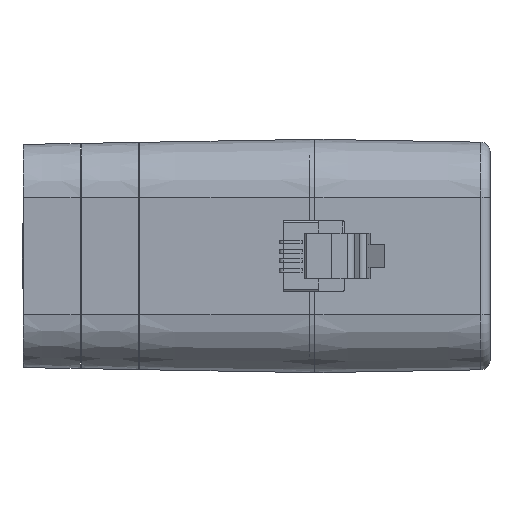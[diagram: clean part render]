
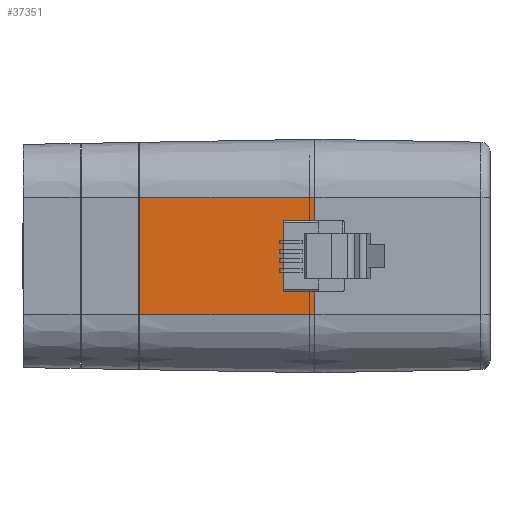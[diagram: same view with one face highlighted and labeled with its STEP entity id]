
A CAD part, left-side view. The second image highlights one B-rep face of the part: STEP entity #37351.
In plain terms, the highlighted planar face has unit normal (-1, 0.018, 0).
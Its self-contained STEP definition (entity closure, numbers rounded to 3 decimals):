
#1566 = DIRECTION ( 'NONE',  ( -0.017, -1., 0. ) ) ;
#1615 = CARTESIAN_POINT ( 'NONE',  ( -31.663, 2.192, -1.65 ) ) ;
#2555 = LINE ( 'NONE', #36103, #12527 ) ;
#2715 = VERTEX_POINT ( 'NONE', #32167 ) ;
#2744 = ORIENTED_EDGE ( 'NONE', *, *, #21936, .T. ) ;
#2830 = ORIENTED_EDGE ( 'NONE', *, *, #6699, .T. ) ;
#4404 = PLANE ( 'NONE',  #26684 ) ;
#6699 = EDGE_CURVE ( 'NONE', #15985, #2715, #11038, .T. ) ;
#6825 = CARTESIAN_POINT ( 'NONE',  ( -31.697, 0.2, 3.636 ) ) ;
#7171 = VERTEX_POINT ( 'NONE', #12784 ) ;
#8104 = LINE ( 'NONE', #28741, #47142 ) ;
#9209 = VERTEX_POINT ( 'NONE', #34279 ) ;
#9618 = VECTOR ( 'NONE', #45434, 1000. ) ;
#10154 = ORIENTED_EDGE ( 'NONE', *, *, #18489, .F. ) ;
#11038 =( BOUNDED_CURVE ( )  B_SPLINE_CURVE ( 3, ( #20647, #46610, #32712, #24563 ),
 .UNSPECIFIED., .F., .T. ) 
 B_SPLINE_CURVE_WITH_KNOTS ( ( 4, 4 ),
 ( 4.709, 6.283 ),
 .UNSPECIFIED. ) 
 CURVE ( )  GEOMETRIC_REPRESENTATION_ITEM ( )  RATIONAL_B_SPLINE_CURVE ( ( 1., 0.804, 0.804, 1. ) ) 
 REPRESENTATION_ITEM ( '' )  );
#12379 = ORIENTED_EDGE ( 'NONE', *, *, #28039, .F. ) ;
#12478 = VERTEX_POINT ( 'NONE', #37122 ) ;
#12527 = VECTOR ( 'NONE', #53041, 1000. ) ;
#12784 = CARTESIAN_POINT ( 'NONE',  ( -31.369, 19., -6.35 ) ) ;
#12916 = ORIENTED_EDGE ( 'NONE', *, *, #26322, .T. ) ;
#14239 = CARTESIAN_POINT ( 'NONE',  ( -31.7, 0.05, -3.635 ) ) ;
#14457 = LINE ( 'NONE', #35963, #36268 ) ;
#14561 = CARTESIAN_POINT ( 'NONE',  ( -31.7, 0.05, -6.35 ) ) ;
#14625 = ORIENTED_EDGE ( 'NONE', *, *, #34490, .T. ) ;
#15116 = LINE ( 'NONE', #15657, #16534 ) ;
#15134 = VERTEX_POINT ( 'NONE', #24800 ) ;
#15657 = CARTESIAN_POINT ( 'NONE',  ( -31.7, 0.05, -6.35 ) ) ;
#15985 = VERTEX_POINT ( 'NONE', #16217 ) ;
#16217 = CARTESIAN_POINT ( 'NONE',  ( -31.697, 0.2, -3.636 ) ) ;
#16534 = VECTOR ( 'NONE', #36073, 1000. ) ;
#16600 = VERTEX_POINT ( 'NONE', #14239 ) ;
#17299 = CARTESIAN_POINT ( 'NONE',  ( -31.698, 0.181, 3.636 ) ) ;
#18489 = EDGE_CURVE ( 'NONE', #7171, #47290, #14457, .T. ) ;
#18566 = DIRECTION ( 'NONE',  ( -1., 0.017, 0. ) ) ;
#19872 = ORIENTED_EDGE ( 'NONE', *, *, #22179, .T. ) ;
#20647 = CARTESIAN_POINT ( 'NONE',  ( -31.697, 0.2, -3.636 ) ) ;
#21936 = EDGE_CURVE ( 'NONE', #15134, #23675, #22286, .T. ) ;
#22179 = EDGE_CURVE ( 'NONE', #7171, #9209, #29248, .T. ) ;
#22286 = LINE ( 'NONE', #17299, #43448 ) ;
#22516 = LINE ( 'NONE', #1615, #33371 ) ;
#23675 = VERTEX_POINT ( 'NONE', #40171 ) ;
#24531 = DIRECTION ( 'NONE',  ( 0.017, 1., -0.003 ) ) ;
#24563 = CARTESIAN_POINT ( 'NONE',  ( -31.663, 2.192, -1.65 ) ) ;
#24800 = CARTESIAN_POINT ( 'NONE',  ( -31.697, 0.2, 3.636 ) ) ;
#25948 = DIRECTION ( 'NONE',  ( -0.017, -1., -0.003 ) ) ;
#26322 = EDGE_CURVE ( 'NONE', #9209, #16600, #36631, .T. ) ;
#26684 = AXIS2_PLACEMENT_3D ( 'NONE', #46260, #18566, #1566 ) ;
#27015 = DIRECTION ( 'NONE',  ( 0., 0., 1. ) ) ;
#27478 = CARTESIAN_POINT ( 'NONE',  ( -31.677, 1.366, 3.639 ) ) ;
#28039 = EDGE_CURVE ( 'NONE', #47290, #12478, #2555, .T. ) ;
#28741 = CARTESIAN_POINT ( 'NONE',  ( -31.7, 0.031, -3.635 ) ) ;
#29248 = LINE ( 'NONE', #41810, #9618 ) ;
#29906 = ORIENTED_EDGE ( 'NONE', *, *, #30771, .T. ) ;
#30771 = EDGE_CURVE ( 'NONE', #2715, #36544, #22516, .T. ) ;
#32167 = CARTESIAN_POINT ( 'NONE',  ( -31.663, 2.192, -1.65 ) ) ;
#32712 = CARTESIAN_POINT ( 'NONE',  ( -31.663, 2.192, -2.816 ) ) ;
#33371 = VECTOR ( 'NONE', #35705, 1000. ) ;
#33589 = VECTOR ( 'NONE', #35798, 1000. ) ;
#34139 = CARTESIAN_POINT ( 'NONE',  ( -31.663, 2.192, 1.65 ) ) ;
#34279 = CARTESIAN_POINT ( 'NONE',  ( -31.7, 0.05, -6.35 ) ) ;
#34445 = CARTESIAN_POINT ( 'NONE',  ( -31.369, 19., 6.35 ) ) ;
#34490 = EDGE_CURVE ( 'NONE', #23675, #12478, #15116, .T. ) ;
#35705 = DIRECTION ( 'NONE',  ( 0., 0., 1. ) ) ;
#35798 = DIRECTION ( 'NONE',  ( 0., 0., 1. ) ) ;
#35963 = CARTESIAN_POINT ( 'NONE',  ( -31.369, 19., -6.35 ) ) ;
#36073 = DIRECTION ( 'NONE',  ( 0., 0., 1. ) ) ;
#36103 = CARTESIAN_POINT ( 'NONE',  ( -31.7, 0.05, 6.35 ) ) ;
#36268 = VECTOR ( 'NONE', #27015, 1000. ) ;
#36335 = EDGE_CURVE ( 'NONE', #16600, #15985, #8104, .T. ) ;
#36544 = VERTEX_POINT ( 'NONE', #34139 ) ;
#36631 = LINE ( 'NONE', #14561, #33589 ) ;
#37122 = CARTESIAN_POINT ( 'NONE',  ( -31.7, 0.05, 6.35 ) ) ;
#37351 = ADVANCED_FACE ( 'NONE', ( #47329 ), #4404, .T. ) ;
#37602 = ORIENTED_EDGE ( 'NONE', *, *, #38060, .T. ) ;
#38060 = EDGE_CURVE ( 'NONE', #36544, #15134, #52061, .T. ) ;
#40171 = CARTESIAN_POINT ( 'NONE',  ( -31.7, 0.05, 3.635 ) ) ;
#41810 = CARTESIAN_POINT ( 'NONE',  ( -31.7, 0.05, -6.35 ) ) ;
#43448 = VECTOR ( 'NONE', #25948, 1000. ) ;
#45017 = CARTESIAN_POINT ( 'NONE',  ( -31.663, 2.192, 2.816 ) ) ;
#45434 = DIRECTION ( 'NONE',  ( -0.017, -1., 0. ) ) ;
#46260 = CARTESIAN_POINT ( 'NONE',  ( -31.7, 0.05, -6.35 ) ) ;
#46536 = EDGE_LOOP ( 'NONE', ( #50542, #2830, #29906, #37602, #2744, #14625, #12379, #10154, #19872, #12916 ) ) ;
#46610 = CARTESIAN_POINT ( 'NONE',  ( -31.677, 1.366, -3.639 ) ) ;
#47142 = VECTOR ( 'NONE', #24531, 1000. ) ;
#47290 = VERTEX_POINT ( 'NONE', #34445 ) ;
#47329 = FACE_OUTER_BOUND ( 'NONE', #46536, .T. ) ;
#48925 = CARTESIAN_POINT ( 'NONE',  ( -31.663, 2.192, 1.65 ) ) ;
#50542 = ORIENTED_EDGE ( 'NONE', *, *, #36335, .T. ) ;
#52061 =( BOUNDED_CURVE ( )  B_SPLINE_CURVE ( 3, ( #48925, #45017, #27478, #6825 ),
 .UNSPECIFIED., .F., .T. ) 
 B_SPLINE_CURVE_WITH_KNOTS ( ( 4, 4 ),
 ( 0., 1.574 ),
 .UNSPECIFIED. ) 
 CURVE ( )  GEOMETRIC_REPRESENTATION_ITEM ( )  RATIONAL_B_SPLINE_CURVE ( ( 1., 0.804, 0.804, 1. ) ) 
 REPRESENTATION_ITEM ( '' )  );
#53041 = DIRECTION ( 'NONE',  ( -0.017, -1., 0. ) ) ;
